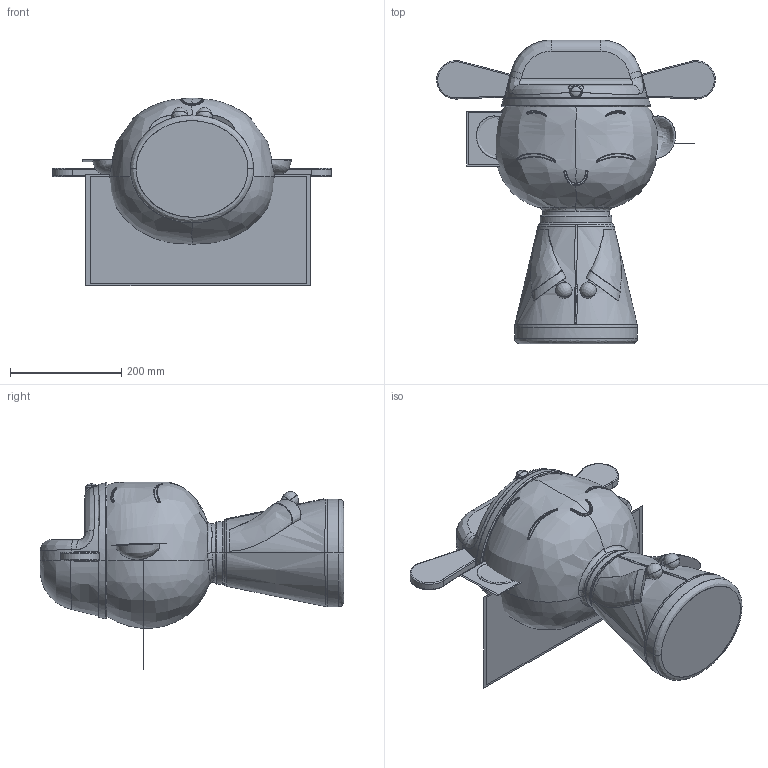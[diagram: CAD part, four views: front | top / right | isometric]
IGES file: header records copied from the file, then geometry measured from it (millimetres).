
Start section:  PTC IGES file: man.igs
Global section: file name: man.igs; native system: Pro/ENGINEER by Parametric Technology Corporation; preprocessor: 2010280; author: Administrator; organization: Unknown; date: 20140425.181953; units: millimetre
Bounding box: 499.82 x 545.06 x 336.58 mm (x, y, z)
Surface area: 887730.9 mm2 (no closed solid volume)
Topology: 0 solids, 0 shells, 190 faces, 956 edges, 958 vertices
Faces by surface type: bspline 147, revolution 35, extrusion 8
